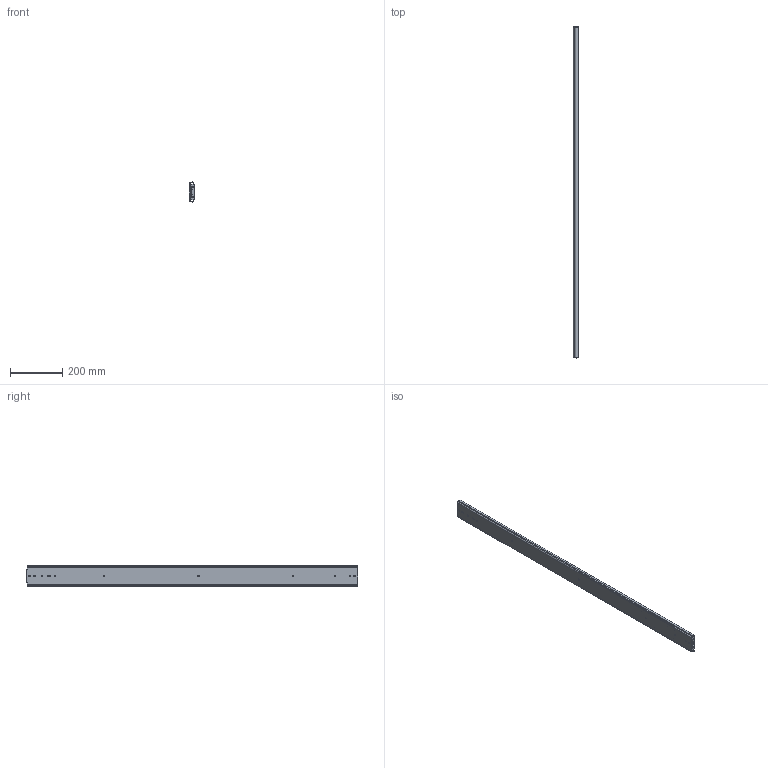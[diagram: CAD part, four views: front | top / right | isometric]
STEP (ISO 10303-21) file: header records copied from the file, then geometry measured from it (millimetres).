
FILE_DESCRIPTION(/* description */ ('Unknown'),/* implementation_level */ '2;1');
FILE_NAME(/* name */ '76J01-50 close',/* time_stamp */ '2024-07-30T09:42:51+08:00',/* author */ ('Unknown'),/* organization */ ('Unknown'),/* preprocessor_version */ 'ST-DEVELOPER v18.104',/* originating_system */ 'Solid Edge',/* authorisation */ 'Unknown');
FILE_SCHEMA (('AUTOMOTIVE_DESIGN {1 0 10303 214 3 1 1}'));
Length unit declared in the file: millimetre
Products named in the file (4): 76J01-50 close; 76J01 50 inch 內; 76J01 50 吋
Assembly tree (3 placements, depth 2):
  76J01-50 close
    76J01 50 inch 內
    76J01 50 吋
    76J01 50 吋
Bounding box: 19.3 x 1270 x 76.76 mm (x, y, z)
Volume: 1002610.1 mm3; surface area: 623522.6 mm2
Topology: 3 solids, 3 shells, 196 faces, 606 edges, 410 vertices
Faces by surface type: plane 104, cylinder 92
Full cylindrical faces by diameter (mm): 5.2 x16, 7.1 x2
Entity records: 7179 total; most frequent: CARTESIAN_POINT 1168, DIRECTION 1152, ORIENTED_EDGE 1140, EDGE_CURVE 570, VERTEX_POINT 392, LINE 384, VECTOR 384, AXIS2_PLACEMENT_3D 384
